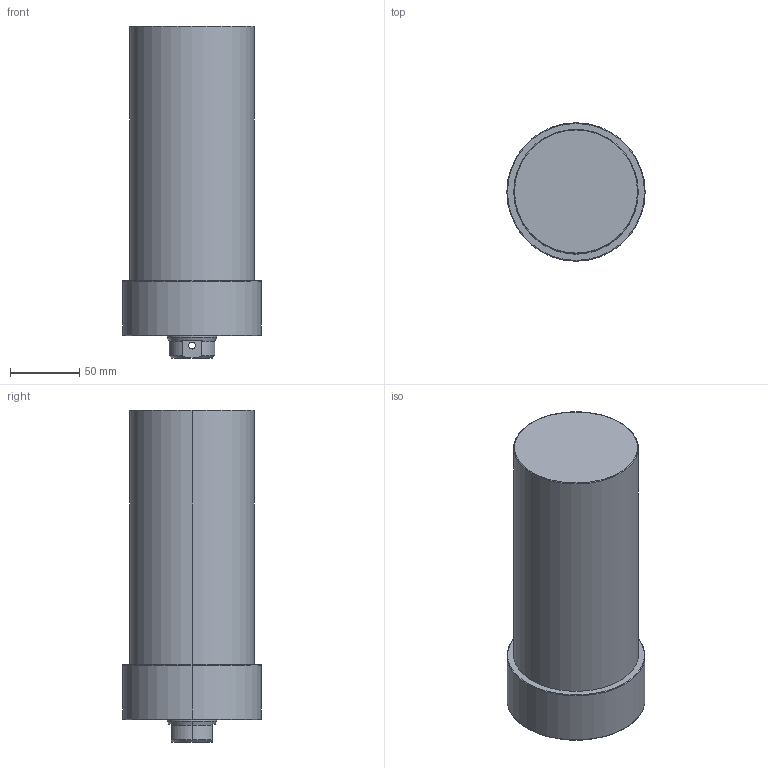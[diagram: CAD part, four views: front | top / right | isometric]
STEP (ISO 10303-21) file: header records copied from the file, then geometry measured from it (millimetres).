
FILE_DESCRIPTION (( 'STEP AP203' ), '1' );
FILE_NAME ('CLLU-090GB-140.STEP', '2020-01-13T05:56:49', ( '' ), ( '' ), 'SwSTEP 2.0', 'SolidWorks 2015', '' );
FILE_SCHEMA (( 'CONFIG_CONTROL_DESIGN' ));
Length unit declared in the file: millimetre
Products named in the file (1): CLLU-090GB-140
Bounding box: 100 x 100 x 240 mm (x, y, z)
Volume: 1478205.7 mm3; surface area: 87624.9 mm2
Topology: 1 solids, 1 shells, 68 faces, 155 edges, 88 vertices
Faces by surface type: cylinder 27, cone 25, plane 10, torus 6
Entity records: 2061 total; most frequent: CARTESIAN_POINT 462, DIRECTION 350, ORIENTED_EDGE 290, AXIS2_PLACEMENT_3D 148, EDGE_CURVE 145, VERTEX_POINT 88, EDGE_LOOP 81, CIRCLE 79
